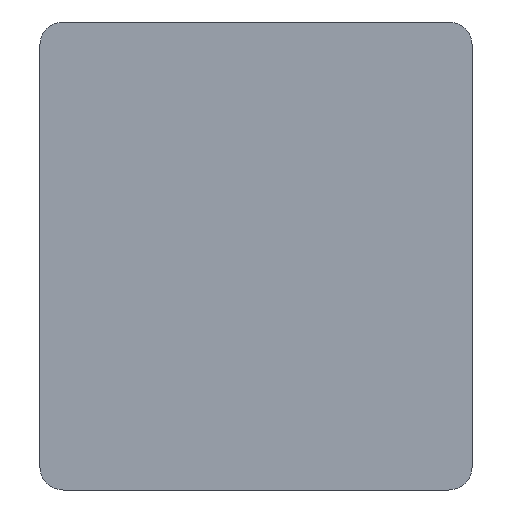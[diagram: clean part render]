
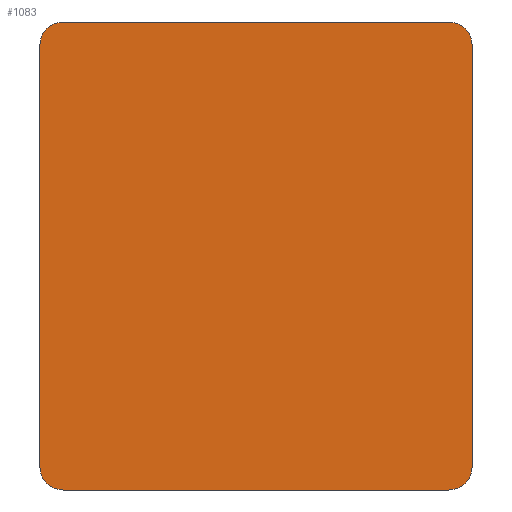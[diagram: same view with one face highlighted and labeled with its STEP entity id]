
A CAD part, front view. The second image highlights one B-rep face of the part: STEP entity #1083.
In plain terms, the highlighted planar face has unit normal (0, -1, 0).
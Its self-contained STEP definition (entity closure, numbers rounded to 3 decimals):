
#13 = ORIENTED_EDGE ( 'NONE', *, *, #747, .T. ) ;
#71 = VERTEX_POINT ( 'NONE', #428 ) ;
#105 = CARTESIAN_POINT ( 'NONE',  ( 32.95, -16., 40. ) ) ;
#120 = EDGE_CURVE ( 'NONE', #743, #71, #441, .T. ) ;
#127 = DIRECTION ( 'NONE',  ( 1., 0., 0. ) ) ;
#128 = AXIS2_PLACEMENT_3D ( 'NONE', #1098, #983, #901 ) ;
#133 = VERTEX_POINT ( 'NONE', #625 ) ;
#134 = CARTESIAN_POINT ( 'NONE',  ( -32.95, -16., -40. ) ) ;
#139 = EDGE_CURVE ( 'NONE', #71, #1007, #1059, .T. ) ;
#172 = CIRCLE ( 'NONE', #250, 4. ) ;
#185 = VERTEX_POINT ( 'NONE', #1162 ) ;
#231 = AXIS2_PLACEMENT_3D ( 'NONE', #399, #1111, #756 ) ;
#232 = LINE ( 'NONE', #956, #542 ) ;
#238 = DIRECTION ( 'NONE',  ( -1., 0., 0. ) ) ;
#250 = AXIS2_PLACEMENT_3D ( 'NONE', #780, #844, #771 ) ;
#284 = AXIS2_PLACEMENT_3D ( 'NONE', #1108, #302, #660 ) ;
#296 = EDGE_CURVE ( 'NONE', #636, #666, #754, .T. ) ;
#297 = ORIENTED_EDGE ( 'NONE', *, *, #920, .T. ) ;
#302 = DIRECTION ( 'NONE',  ( 0., -1., 0. ) ) ;
#318 = CARTESIAN_POINT ( 'NONE',  ( 32.95, -16., -40. ) ) ;
#341 = EDGE_CURVE ( 'NONE', #185, #636, #677, .T. ) ;
#374 = ORIENTED_EDGE ( 'NONE', *, *, #139, .T. ) ;
#399 = CARTESIAN_POINT ( 'NONE',  ( 0., -16., 0. ) ) ;
#413 = CARTESIAN_POINT ( 'NONE',  ( 36.95, -16., -36. ) ) ;
#428 = CARTESIAN_POINT ( 'NONE',  ( 36.95, -16., 36. ) ) ;
#441 = LINE ( 'NONE', #538, #1037 ) ;
#464 = LINE ( 'NONE', #540, #528 ) ;
#465 = EDGE_CURVE ( 'NONE', #1007, #133, #232, .T. ) ;
#469 = CIRCLE ( 'NONE', #699, 4. ) ;
#496 = PLANE ( 'NONE',  #231 ) ;
#516 = ORIENTED_EDGE ( 'NONE', *, *, #120, .T. ) ;
#528 = VECTOR ( 'NONE', #819, 1000. ) ;
#534 = DIRECTION ( 'NONE',  ( 0., 0., -1. ) ) ;
#538 = CARTESIAN_POINT ( 'NONE',  ( 36.95, -16., 40. ) ) ;
#540 = CARTESIAN_POINT ( 'NONE',  ( -36.95, -16., 40. ) ) ;
#542 = VECTOR ( 'NONE', #238, 1000. ) ;
#548 = DIRECTION ( 'NONE',  ( 0., -1., 0. ) ) ;
#576 = ORIENTED_EDGE ( 'NONE', *, *, #341, .T. ) ;
#625 = CARTESIAN_POINT ( 'NONE',  ( -32.95, -16., 40. ) ) ;
#636 = VERTEX_POINT ( 'NONE', #134 ) ;
#644 = CARTESIAN_POINT ( 'NONE',  ( -32.95, -16., 36. ) ) ;
#660 = DIRECTION ( 'NONE',  ( 0., 0., -1. ) ) ;
#666 = VERTEX_POINT ( 'NONE', #318 ) ;
#673 = FACE_OUTER_BOUND ( 'NONE', #1113, .T. ) ;
#677 = CIRCLE ( 'NONE', #284, 4. ) ;
#699 = AXIS2_PLACEMENT_3D ( 'NONE', #644, #548, #534 ) ;
#714 = DIRECTION ( 'NONE',  ( 0., 0., 1. ) ) ;
#716 = VERTEX_POINT ( 'NONE', #1027 ) ;
#743 = VERTEX_POINT ( 'NONE', #413 ) ;
#747 = EDGE_CURVE ( 'NONE', #666, #743, #172, .T. ) ;
#754 = LINE ( 'NONE', #950, #967 ) ;
#756 = DIRECTION ( 'NONE',  ( 0., 0., -1. ) ) ;
#771 = DIRECTION ( 'NONE',  ( 0., 0., -1. ) ) ;
#780 = CARTESIAN_POINT ( 'NONE',  ( 32.95, -16., -36. ) ) ;
#793 = ORIENTED_EDGE ( 'NONE', *, *, #1018, .T. ) ;
#819 = DIRECTION ( 'NONE',  ( 0., 0., -1. ) ) ;
#844 = DIRECTION ( 'NONE',  ( 0., -1., 0. ) ) ;
#901 = DIRECTION ( 'NONE',  ( 0., 0., -1. ) ) ;
#920 = EDGE_CURVE ( 'NONE', #133, #716, #469, .T. ) ;
#950 = CARTESIAN_POINT ( 'NONE',  ( -36.95, -16., -40. ) ) ;
#956 = CARTESIAN_POINT ( 'NONE',  ( -36.95, -16., 40. ) ) ;
#967 = VECTOR ( 'NONE', #127, 1000. ) ;
#983 = DIRECTION ( 'NONE',  ( 0., -1., 0. ) ) ;
#1007 = VERTEX_POINT ( 'NONE', #105 ) ;
#1018 = EDGE_CURVE ( 'NONE', #716, #185, #464, .T. ) ;
#1024 = ORIENTED_EDGE ( 'NONE', *, *, #465, .T. ) ;
#1027 = CARTESIAN_POINT ( 'NONE',  ( -36.95, -16., 36. ) ) ;
#1037 = VECTOR ( 'NONE', #714, 1000. ) ;
#1059 = CIRCLE ( 'NONE', #128, 4. ) ;
#1083 = ADVANCED_FACE ( 'NONE', ( #673 ), #496, .T. ) ;
#1098 = CARTESIAN_POINT ( 'NONE',  ( 32.95, -16., 36. ) ) ;
#1108 = CARTESIAN_POINT ( 'NONE',  ( -32.95, -16., -36. ) ) ;
#1111 = DIRECTION ( 'NONE',  ( 0., -1., 0. ) ) ;
#1113 = EDGE_LOOP ( 'NONE', ( #516, #374, #1024, #297, #793, #576, #1137, #13 ) ) ;
#1137 = ORIENTED_EDGE ( 'NONE', *, *, #296, .T. ) ;
#1162 = CARTESIAN_POINT ( 'NONE',  ( -36.95, -16., -36. ) ) ;
